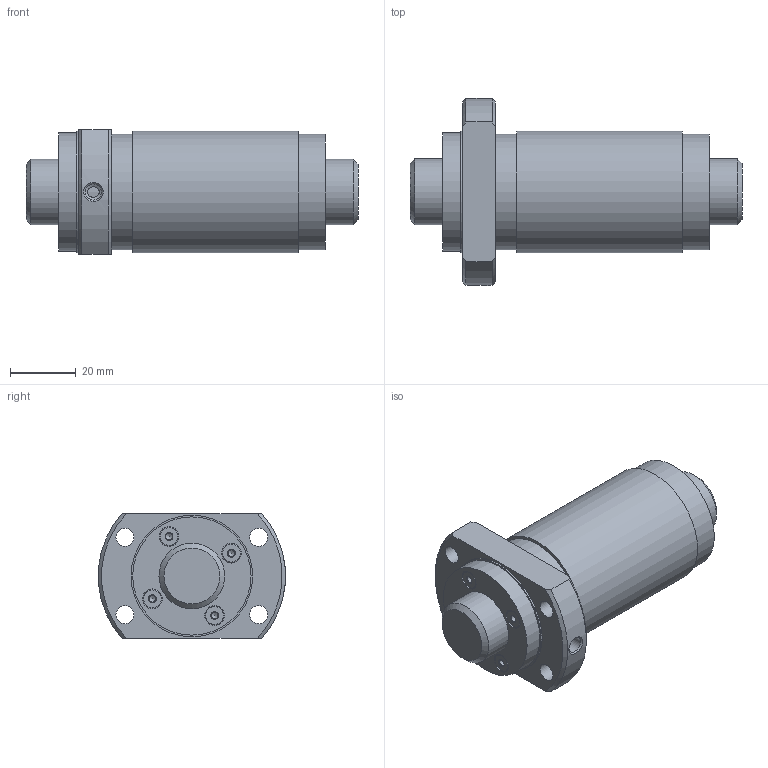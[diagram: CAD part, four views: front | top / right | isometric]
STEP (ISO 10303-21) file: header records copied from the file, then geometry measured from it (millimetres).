
FILE_DESCRIPTION(/* description */ ('STEP AP203'),/* implementation_level */ '2;1');
FILE_NAME(/* name */ 'WGF2040-3G1+101LC3_0_13_0_0',/* time_stamp */ '2025-01-16T06:25:48+01:00',/* author */ ('License CC BY-ND 4.0'),/* organization */ ('CADENAS'),/* preprocessor_version */ 'ST-DEVELOPER v19.3',/* originating_system */ 'PARTsolutions',/* authorisation */ ' ');
FILE_SCHEMA (('CONFIG_CONTROL_DESIGN'));
Length unit declared in the file: millimetre
Products named in the file (3): WGF2040-3G1+101LC3_0_13_0_0; 0130WGF2040-30Shaft; RR0130WGF2040-3Nut
Assembly tree (2 placements, depth 2):
  WGF2040-3G1+101LC3_0_13_0_0
    0130WGF2040-30Shaft
    RR0130WGF2040-3Nut
Bounding box: 101 x 56.91 x 38 mm (x, y, z)
Volume: 99099.5 mm3; surface area: 26821.3 mm2
Topology: 2 solids, 2 shells, 65 faces, 132 edges, 84 vertices
Faces by surface type: cylinder 26, plane 19, cone 16, torus 4
Full cylindrical faces by diameter (mm): 2 x4, 4.917 x1, 5.5 x4, 5.8 x4, 6 x4, 20 x2, 35.15 x2, 36 x1, 37 x2
Entity records: 1585 total; most frequent: CARTESIAN_POINT 278, DIRECTION 276, ORIENTED_EDGE 168, FACE_BOUND 134, AXIS2_PLACEMENT_3D 134, EDGE_LOOP 130, EDGE_CURVE 84, VERTEX_POINT 80
